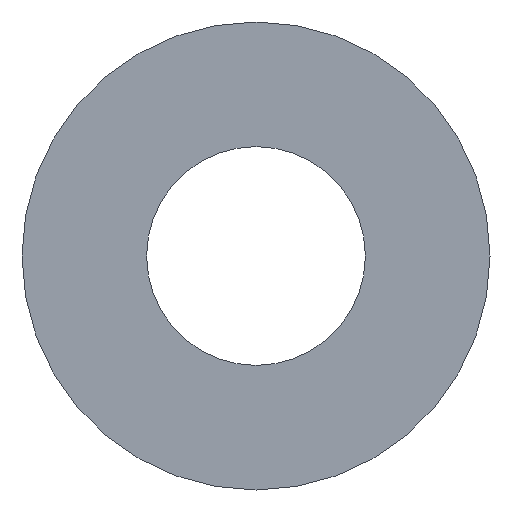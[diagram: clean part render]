
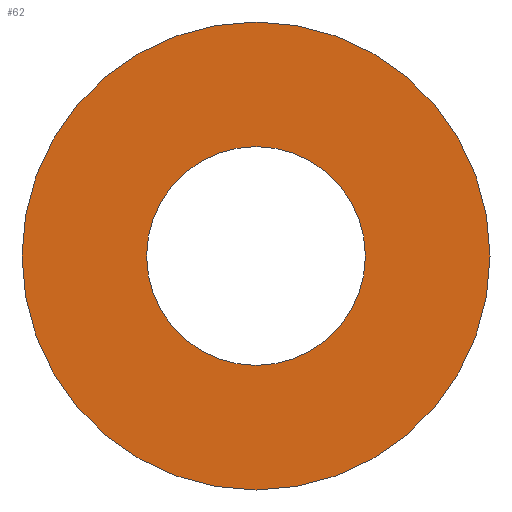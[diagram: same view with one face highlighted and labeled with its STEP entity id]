
A CAD part, front view. The second image highlights one B-rep face of the part: STEP entity #62.
In plain terms, the highlighted planar face has unit normal (0, -1, 0).
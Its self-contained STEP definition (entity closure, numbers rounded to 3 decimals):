
#20=PLANE('',#83);
#26=ORIENTED_EDGE('',*,*,#30,.T.);
#27=ORIENTED_EDGE('',*,*,#32,.F.);
#30=EDGE_CURVE('',#34,#34,#38,.T.);
#32=EDGE_CURVE('',#36,#36,#40,.T.);
#34=VERTEX_POINT('',#106);
#36=VERTEX_POINT('',#111);
#38=CIRCLE('',#78,21.5);
#40=CIRCLE('',#81,46.);
#46=EDGE_LOOP('',(#26));
#47=EDGE_LOOP('',(#27));
#54=FACE_BOUND('',#46,.T.);
#55=FACE_BOUND('',#47,.T.);
#62=ADVANCED_FACE('',(#54,#55),#20,.F.);
#78=AXIS2_PLACEMENT_3D('',#105,#89,#90);
#81=AXIS2_PLACEMENT_3D('',#110,#95,#96);
#83=AXIS2_PLACEMENT_3D('',#114,#99,#100);
#89=DIRECTION('',(0.,1.,0.));
#90=DIRECTION('',(1.,0.,0.));
#95=DIRECTION('',(0.,1.,0.));
#96=DIRECTION('',(1.,0.,0.));
#99=DIRECTION('',(0.,1.,0.));
#100=DIRECTION('',(0.,0.,1.));
#105=CARTESIAN_POINT('',(0.,-1.5,0.));
#106=CARTESIAN_POINT('',(21.5,-1.5,0.));
#110=CARTESIAN_POINT('',(0.,-1.5,0.));
#111=CARTESIAN_POINT('',(46.,-1.5,0.));
#114=CARTESIAN_POINT('',(0.,-1.5,0.));
